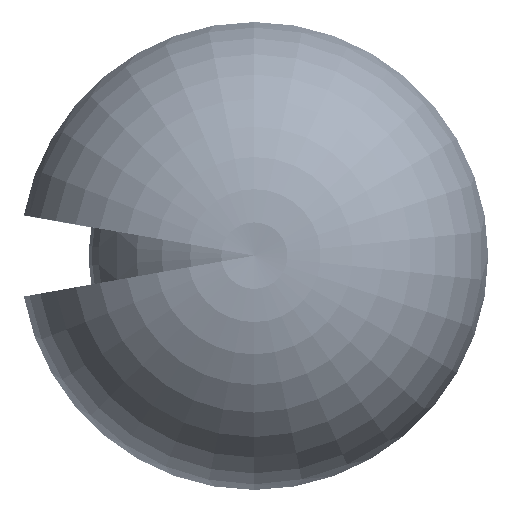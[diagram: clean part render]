
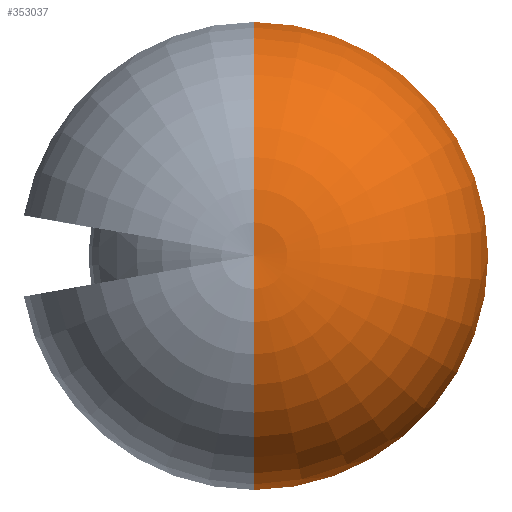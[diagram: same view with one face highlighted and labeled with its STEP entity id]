
A CAD part, top view. The second image highlights one B-rep face of the part: STEP entity #353037.
In plain terms, the highlighted toroidal (fillet/blend) face has major radius 320 mm and minor radius 2185.02 mm.
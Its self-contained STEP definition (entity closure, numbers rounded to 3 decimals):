
#76897 = FACE_OUTER_BOUND ( 'NONE', #734619, .T. ) ;
#78380 = VERTEX_POINT ( 'NONE', #597660 ) ;
#110519 = EDGE_CURVE ( 'NONE', #78380, #745268, #478216, .T. ) ;
#127440 = AXIS2_PLACEMENT_3D ( 'NONE', #415373, #659809, #638122 ) ;
#258425 = TOROIDAL_SURFACE ( 'NONE', #616365, 320., 2185.024 ) ;
#279775 = DIRECTION ( 'NONE',  ( 1., 0., 0. ) ) ;
#312784 = ORIENTED_EDGE ( 'NONE', *, *, #493858, .F. ) ;
#333081 = CARTESIAN_POINT ( 'NONE',  ( 0., 0., 780. ) ) ;
#353037 = ADVANCED_FACE ( 'NONE', ( #76897 ), #258425, .T. ) ;
#361146 = ORIENTED_EDGE ( 'NONE', *, *, #110519, .T. ) ;
#367862 = ORIENTED_EDGE ( 'NONE', *, *, #742317, .F. ) ;
#392832 = DIRECTION ( 'NONE',  ( -1., 0., 0. ) ) ;
#396053 = CARTESIAN_POINT ( 'NONE',  ( 0., -320., 780. ) ) ;
#415373 = CARTESIAN_POINT ( 'NONE',  ( 0., 0., 970.437 ) ) ;
#445078 = CARTESIAN_POINT ( 'NONE',  ( 0., 320., 780. ) ) ;
#478216 = CIRCLE ( 'NONE', #746913, 2185.024 ) ;
#493858 = EDGE_CURVE ( 'NONE', #78380, #529190, #625427, .T. ) ;
#505372 = DIRECTION ( 'NONE',  ( 0., 1., 0. ) ) ;
#512210 = DIRECTION ( 'NONE',  ( 0., 1., 0. ) ) ;
#529190 = VERTEX_POINT ( 'NONE', #732334 ) ;
#562592 = CIRCLE ( 'NONE', #127440, 2496.71 ) ;
#597660 = CARTESIAN_POINT ( 'NONE',  ( 0., 0., 2941.465 ) ) ;
#616365 = AXIS2_PLACEMENT_3D ( 'NONE', #333081, #761667, #505372 ) ;
#625427 = CIRCLE ( 'NONE', #663867, 2185.024 ) ;
#637247 = DIRECTION ( 'NONE',  ( 0., 0., 1. ) ) ;
#638122 = DIRECTION ( 'NONE',  ( 0., 1., 0. ) ) ;
#659809 = DIRECTION ( 'NONE',  ( 0., 0., -1. ) ) ;
#663867 = AXIS2_PLACEMENT_3D ( 'NONE', #445078, #392832, #637247 ) ;
#714589 = CARTESIAN_POINT ( 'NONE',  ( 0., -2496.71, 970.437 ) ) ;
#732334 = CARTESIAN_POINT ( 'NONE',  ( 0., 2496.71, 970.437 ) ) ;
#734619 = EDGE_LOOP ( 'NONE', ( #312784, #361146, #367862 ) ) ;
#742317 = EDGE_CURVE ( 'NONE', #529190, #745268, #562592, .T. ) ;
#745268 = VERTEX_POINT ( 'NONE', #714589 ) ;
#746913 = AXIS2_PLACEMENT_3D ( 'NONE', #396053, #279775, #512210 ) ;
#761667 = DIRECTION ( 'NONE',  ( 0., 0., -1. ) ) ;
